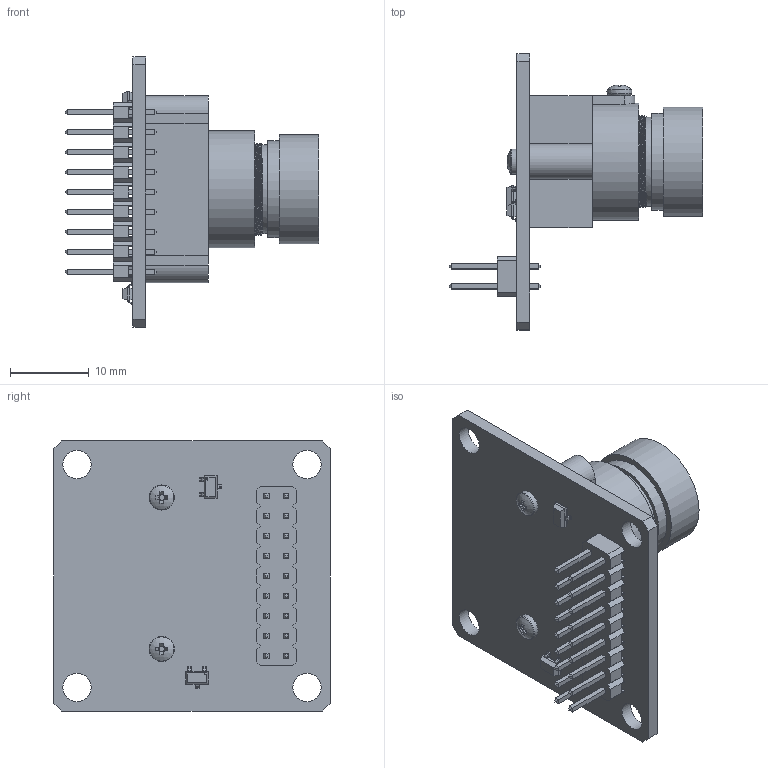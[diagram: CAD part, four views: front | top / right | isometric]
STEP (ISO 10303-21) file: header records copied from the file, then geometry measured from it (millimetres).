
FILE_DESCRIPTION(/* description */ (''),/* implementation_level */ '2;1');
FILE_NAME(/* name */ 'OV7670 cuiisw.stp',/* time_stamp */ '2024-11-21T12:53:52+01:00',/* author */ ('Alex'),/* organization */ (''),/* preprocessor_version */ 'ST-DEVELOPER v20',/* originating_system */ 'Autodesk Inventor 2025',/* authorisation */ '');
FILE_SCHEMA (('AUTOMOTIVE_DESIGN { 1 0 10303 214 3 1 1 }'));
Length unit declared in the file: millimetre
Products named in the file (8): OV7670 cuiisw; OV7670 cuiisw house; OV7670 cuiisw pcb; OV7670 cuiisw lens unit; 92000A001_Passivated 18-8 Stainless Steel Pan Head Phillips Screws; pan head cross recess screw_iso; PLS (DS1021-2xN); TRANS_2SB852K_ROM
Assembly tree (9 placements, depth 2):
  OV7670 cuiisw
    OV7670 cuiisw house
    OV7670 cuiisw pcb
    OV7670 cuiisw lens unit
    92000A001_Passivated 18-8 Stainless Steel Pan Head Phillips Screws
    pan head cross recess screw_iso  x2
    PLS (DS1021-2xN)
    TRANS_2SB852K_ROM  x2
Bounding box: 32.25 x 35.2 x 34.4 mm (x, y, z)
Volume: 4879.5 mm3; surface area: 8647.9 mm2
Topology: 22 solids, 22 shells, 853 faces, 2090 edges, 1325 vertices
Faces by surface type: plane 703, cylinder 95, cone 28, bspline 17, torus 6, sphere 4
Full cylindrical faces by diameter (mm): 0.145 x2, 1.145 x6, 1.5 x1, 1.6 x9, 2 x4, 3.2 x2, 3.6 x4, 4.846 x2, 5.203 x1, 9.29 x2, 9.9 x2, 11.1 x1, 11.3 x2, 12.3 x1, 12.9 x1, 13.9 x1, 14.9 x1
Entity records: 30445 total; most frequent: CARTESIAN_POINT 11685, ORIENTED_EDGE 3738, DIRECTION 3508, EDGE_CURVE 1869, LINE 1568, VECTOR 1568, VERTEX_POINT 1187, AXIS2_PLACEMENT_3D 970
